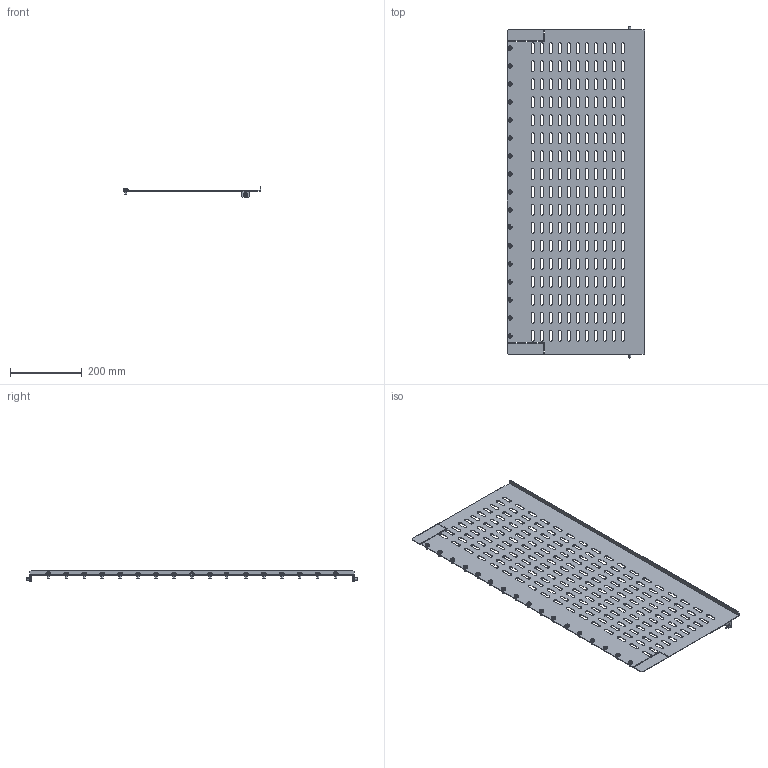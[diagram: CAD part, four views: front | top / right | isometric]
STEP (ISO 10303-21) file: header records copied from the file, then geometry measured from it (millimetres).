
FILE_DESCRIPTION (( 'STEP AP214' ), '1' );
FILE_NAME ('FO-00-SWHR-100 Ïåðåãîðîäêà ñåêöèîíèðîâàíèÿ ãîðèçîíòàëüíàÿ àïïàðàòíîãî îòñåêà øèðèíà 1000 ìì.STEP', '2025-08-06T12:30:43', ( '' ), ( '' ), 'SwSTEP 2.0', 'SolidWorks 2023', '' );
FILE_SCHEMA (( 'AUTOMOTIVE_DESIGN' ));
Length unit declared in the file: millimetre
Products named in the file (3): Винт М6х10 IEK; FO-00-SWHR-100 Перегородка секционирования горизонтальная аппаратного отсека ширина 1000 мм; Перегородка секционирования горизонтальная аппаратного отсека ширина 1000 мм
Assembly tree (20 placements, depth 2):
  FO-00-SWHR-100 Перегородка секционирования горизонтальная аппаратного отсека ширина 1000 мм
    Перегородка секционирования горизонтальная аппаратного отсека ширина 1000 мм
    Винт М6х10 IEK  x19
Bounding box: 383.5 x 923 x 30.5 mm (x, y, z)
Volume: 478450 mm3; surface area: 655942.7 mm2
Topology: 20 solids, 20 shells, 1445 faces, 3987 edges, 2620 vertices
Faces by surface type: plane 666, cylinder 494, cone 209, torus 76
Entity records: 31063 total; most frequent: CARTESIAN_POINT 5327, DIRECTION 5321, ORIENTED_EDGE 5274, EDGE_CURVE 2637, AXIS2_PLACEMENT_3D 1782, LINE 1757, VECTOR 1757, VERTEX_POINT 1756
